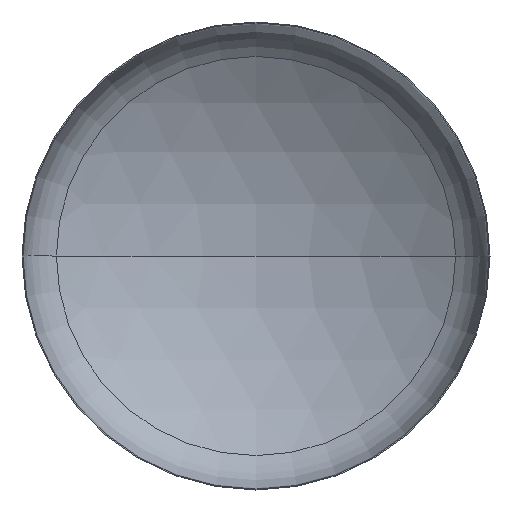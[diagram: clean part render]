
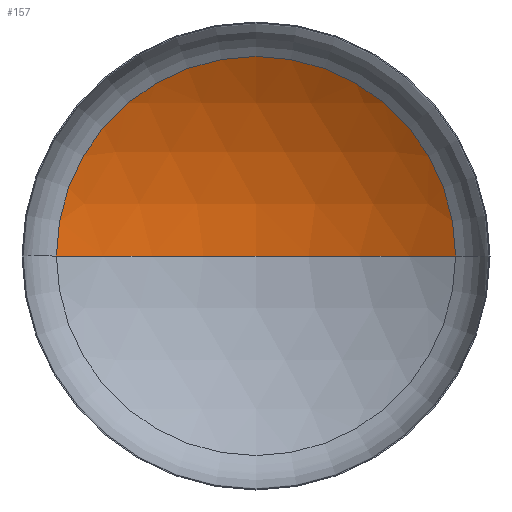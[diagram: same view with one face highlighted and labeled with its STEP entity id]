
A CAD part, front view. The second image highlights one B-rep face of the part: STEP entity #157.
In plain terms, the highlighted spherical face has radius 1200 mm.
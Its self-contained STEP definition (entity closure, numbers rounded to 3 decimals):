
#34 = EDGE_LOOP ( 'NONE', ( #53, #44, #138 ) ) ;
#44 = ORIENTED_EDGE ( 'NONE', *, *, #188, .T. ) ;
#53 = ORIENTED_EDGE ( 'NONE', *, *, #194, .F. ) ;
#55 = AXIS2_PLACEMENT_3D ( 'NONE', #261, #258, #274 ) ;
#57 = VERTEX_POINT ( 'NONE', #222 ) ;
#58 = AXIS2_PLACEMENT_3D ( 'NONE', #241, #240, #239 ) ;
#59 = AXIS2_PLACEMENT_3D ( 'NONE', #178, #337, #191 ) ;
#62 = AXIS2_PLACEMENT_3D ( 'NONE', #257, #219, #405 ) ;
#117 = VERTEX_POINT ( 'NONE', #333 ) ;
#138 = ORIENTED_EDGE ( 'NONE', *, *, #174, .T. ) ;
#151 = VERTEX_POINT ( 'NONE', #202 ) ;
#157 = ADVANCED_FACE ( 'NONE', ( #397 ), #227, .F. ) ;
#174 = EDGE_CURVE ( 'NONE', #117, #151, #221, .T. ) ;
#178 = CARTESIAN_POINT ( 'NONE',  ( 0., 214.608, 0. ) ) ;
#188 = EDGE_CURVE ( 'NONE', #57, #117, #217, .T. ) ;
#191 = DIRECTION ( 'NONE',  ( 1., 0., 0. ) ) ;
#194 = EDGE_CURVE ( 'NONE', #57, #151, #394, .T. ) ;
#202 = CARTESIAN_POINT ( 'NONE',  ( -639.588, 214.608, 0. ) ) ;
#217 = CIRCLE ( 'NONE', #55, 1200. ) ;
#219 = DIRECTION ( 'NONE',  ( 0., 0., -1. ) ) ;
#221 = CIRCLE ( 'NONE', #59, 639.588 ) ;
#222 = CARTESIAN_POINT ( 'NONE',  ( 0., 399.262, 0. ) ) ;
#227 = SPHERICAL_SURFACE ( 'NONE', #62, 1200. ) ;
#239 = DIRECTION ( 'NONE',  ( 1., 0., 0. ) ) ;
#240 = DIRECTION ( 'NONE',  ( 0., 0., 1. ) ) ;
#241 = CARTESIAN_POINT ( 'NONE',  ( 0., -800.738, 0. ) ) ;
#257 = CARTESIAN_POINT ( 'NONE',  ( 0., -800.738, 0. ) ) ;
#258 = DIRECTION ( 'NONE',  ( 0., 0., -1. ) ) ;
#261 = CARTESIAN_POINT ( 'NONE',  ( 0., -800.738, 0. ) ) ;
#274 = DIRECTION ( 'NONE',  ( -1., 0., 0. ) ) ;
#333 = CARTESIAN_POINT ( 'NONE',  ( 639.588, 214.608, 0. ) ) ;
#337 = DIRECTION ( 'NONE',  ( 0., -1., 0. ) ) ;
#394 = CIRCLE ( 'NONE', #58, 1200. ) ;
#397 = FACE_OUTER_BOUND ( 'NONE', #34, .T. ) ;
#405 = DIRECTION ( 'NONE',  ( -1., 0., 0. ) ) ;
